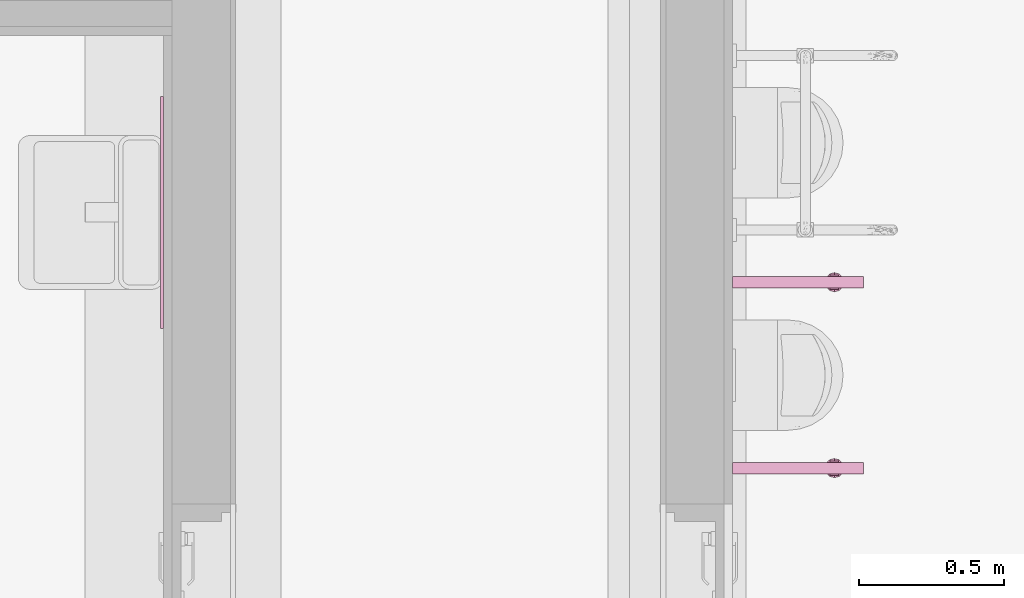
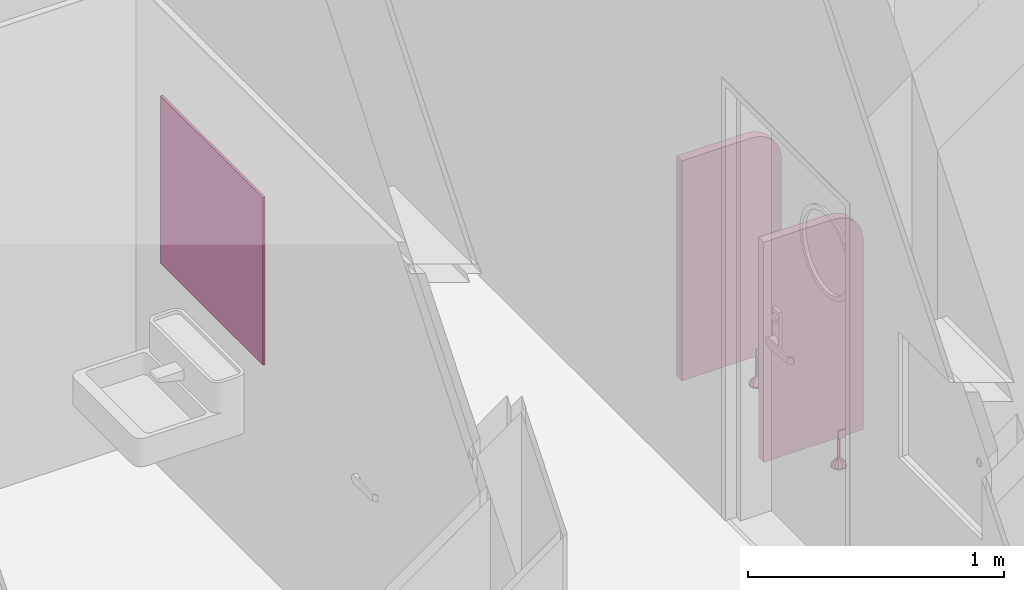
# One storey, part 96 of 100: 3 furnishings.
"""IFC2X3 building model written with IfcOpenShell, lengths in millimetres."""

from ifc_helpers import new_model, entity, si_unit, converted_unit, derived_unit, direction, frame, origin, origin_2d_with_axis, place, context, subcontext, project, spatial, rectangle, extrude, faceted_brep, source, transform, mapped, material, material_list, type_object, type_shapes, element, save


model = new_model("IFC2X3")

# Units and contexts
model_context = context("Model", 3, precision=0.01, world=origin(), true_north=direction((6.123031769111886e-17, 1.0)))
body_context = subcontext(model_context, "Body", "Model", "MODEL_VIEW")
ifc_project = project(units=[si_unit("LENGTHUNIT", "METRE", prefix="MILLI"), si_unit("AREAUNIT", "SQUARE_METRE"), si_unit("VOLUMEUNIT", "CUBIC_METRE"), converted_unit("PLANEANGLEUNIT", "DEGREE", entity("IfcRatioMeasure", 0.017453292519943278), si_unit("PLANEANGLEUNIT", "RADIAN"), dimensions=[0, 0, 0, 0, 0, 0, 0]), si_unit("MASSUNIT", "GRAM", prefix="KILO"), derived_unit("MASSDENSITYUNIT", [(si_unit("MASSUNIT", "GRAM", prefix="KILO"), 1), (si_unit("LENGTHUNIT", "METRE"), -3)]), derived_unit("MOMENTOFINERTIAUNIT", [(si_unit("LENGTHUNIT", "METRE"), 4)]), si_unit("TIMEUNIT", "SECOND"), si_unit("FREQUENCYUNIT", "HERTZ"), si_unit("THERMODYNAMICTEMPERATUREUNIT", "DEGREE_CELSIUS"), derived_unit("THERMALTRANSMITTANCEUNIT", [(si_unit("MASSUNIT", "GRAM", prefix="KILO"), 1), (si_unit("THERMODYNAMICTEMPERATUREUNIT", "KELVIN"), -1), (si_unit("TIMEUNIT", "SECOND"), -3)]), derived_unit("VOLUMETRICFLOWRATEUNIT", [(si_unit("LENGTHUNIT", "METRE"), 3), (si_unit("TIMEUNIT", "SECOND"), -1)]), derived_unit("MASSFLOWRATEUNIT", [(si_unit("MASSUNIT", "GRAM", prefix="KILO"), 1), (si_unit("TIMEUNIT", "SECOND"), -1)]), derived_unit("ROTATIONALFREQUENCYUNIT", [(si_unit("TIMEUNIT", "SECOND"), -1)]), si_unit("ELECTRICCURRENTUNIT", "AMPERE"), si_unit("ELECTRICVOLTAGEUNIT", "VOLT"), si_unit("POWERUNIT", "WATT"), si_unit("FORCEUNIT", "NEWTON", prefix="KILO"), si_unit("ILLUMINANCEUNIT", "LUX"), si_unit("LUMINOUSFLUXUNIT", "LUMEN"), si_unit("LUMINOUSINTENSITYUNIT", "CANDELA"), derived_unit("USERDEFINED", [(si_unit("MASSUNIT", "GRAM", prefix="KILO"), -1), (si_unit("LENGTHUNIT", "METRE"), -2), (si_unit("TIMEUNIT", "SECOND"), 3), (si_unit("LUMINOUSFLUXUNIT", "LUMEN"), 1)]), derived_unit("SOUNDPOWERUNIT", [(si_unit("MASSUNIT", "GRAM", prefix="KILO"), 1), (si_unit("LENGTHUNIT", "METRE"), 2), (si_unit("TIMEUNIT", "SECOND"), -3)]), derived_unit("SOUNDPRESSUREUNIT", [(si_unit("MASSUNIT", "GRAM", prefix="KILO"), 1), (si_unit("LENGTHUNIT", "METRE"), -1), (si_unit("TIMEUNIT", "SECOND"), -2)]), derived_unit("LINEARVELOCITYUNIT", [(si_unit("LENGTHUNIT", "METRE"), 1), (si_unit("TIMEUNIT", "SECOND"), -1)]), si_unit("PRESSUREUNIT", "PASCAL"), derived_unit("USERDEFINED", [(si_unit("LENGTHUNIT", "METRE"), -2), (si_unit("MASSUNIT", "GRAM", prefix="KILO"), 1), (si_unit("TIMEUNIT", "SECOND"), -2)]), derived_unit("LINEARFORCEUNIT", [(si_unit("MASSUNIT", "GRAM", prefix="KILO"), 1), (si_unit("LENGTHUNIT", "METRE"), 1), (si_unit("TIMEUNIT", "SECOND"), -2), (si_unit("LENGTHUNIT", "METRE"), -1)]), derived_unit("PLANARFORCEUNIT", [(si_unit("MASSUNIT", "GRAM", prefix="KILO"), 1), (si_unit("LENGTHUNIT", "METRE"), 1), (si_unit("TIMEUNIT", "SECOND"), -2), (si_unit("LENGTHUNIT", "METRE"), -2)])], contexts=[model_context])

# Site, building, storey, space
site_placement = place(None, frame((-14167.972527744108, -657.2125860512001, 0.0)))
site = spatial("IfcSite", under=ifc_project, at=site_placement, Name="Default", CompositionType="ELEMENT")
building_placement = place(site_placement, origin())
building = spatial("IfcBuilding", under=site, at=building_placement, Name="Sample Building", CompositionType="ELEMENT")
storey_placement = place(building_placement, origin())
storey = spatial("IfcBuildingStorey", under=building, at=storey_placement, Name="지상 1층", CompositionType="ELEMENT", Elevation=0.0)
space_1_placement = place(storey_placement, origin())
space_1 = spatial("IfcSpace", under=storey, at=space_1_placement, Name="170", CompositionType="ELEMENT", InteriorOrExteriorSpace="INTERNAL")

# Furnishing
ifc_material_1 = material(Name="KBIMS-거울")
furniture_type_1 = type_object("IfcFurnitureType", Name="PF531-거울:PF531-거울 800x800", material=ifc_material_1)
shared_shape_1 = source(origin(), body_context, "Body", "SweptSolid", [
    extrude(rectangle(XDim=10.000000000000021, YDim=799.9999999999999, at=origin_2d_with_axis()), frame((0.0, 5.0, 0.0), z_axis=(0.0, 0.0, 1.0), x_axis=(0.0, 1.0, 0.0)), (0.0, 0.0, 1.0), 800.0000000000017),
])
type_shapes(furniture_type_1, [shared_shape_1])
furnishing_1_placement = place(space_1_placement, frame((36237.96375501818, 24567.313063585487, 490.0), z_axis=(0.0, 0.0, 1.0), x_axis=(0.0, 1.0, 0.0)))
element("IfcFurnishingElement", 1, at=furnishing_1_placement, inside=space_1, type_object=furniture_type_1, material=ifc_material_1, Name="PF531-거울:PF531-거울 800x800", ObjectType="PF531-거울:PF531-거울 800x800", context=body_context, shape_type="MappedRepresentation", body=[
    mapped(shared_shape_1, transform((0.0, 0.0, 0.0), scale=1.0)),
])

# Space
space_2_placement = place(storey_placement, origin())
space_2 = spatial("IfcSpace", under=storey, at=space_2_placement, Name="171", CompositionType="ELEMENT", InteriorOrExteriorSpace="INTERNAL")

# Furnishings
ifc_material_2 = material(Name="KBIMS-스테인리스 스틸_도금")
ifc_material_3 = material(Name="KBIMS-이동식칸막이")
ifc_material_list_1 = material_list([ifc_material_2, ifc_material_3])
ifc_material_list_2 = material_list([ifc_material_2, ifc_material_2, ifc_material_3])
furniture_type_2 = type_object("IfcFurnitureType", Name="PF582-소변기 칸막이:PF582-소변기 칸막이", material=ifc_material_list_2)
shared_shape_2 = source(origin(), body_context, "Body", "Brep", [
    faceted_brep([(-25.0, -365.0, 145.0), (25.0, -365.0, 145.0), (25.0, -365.0, 185.0), (20.0, -365.0, 185.0), (20.0, -365.0, 150.0), (-20.0, -365.0, 150.0), (-20.0, -365.0, 185.0), (-25.0, -365.0, 185.0), (-25.0, -335.0, 145.0), (-25.0, -335.0, 185.0), (-20.0, -335.0, 185.0), (-20.0, -335.0, 150.0), (20.0, -335.0, 150.0), (20.0, -335.0, 185.0), (25.0, -335.0, 185.0), (25.0, -335.0, 145.0)], [[[0, 1, 2, 3, 4, 5, 6, 7]], [[8, 9, 10, 11, 12, 13, 14, 15]], [[1, 0, 8, 15]], [[2, 1, 15, 14]], [[3, 2, 14, 13]], [[4, 3, 13, 12]], [[5, 4, 12, 11]], [[6, 5, 11, 10]], [[7, 6, 10, 9]], [[0, 7, 9, 8]]]),
    faceted_brep([(-22.500526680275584, -327.4994733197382, 7.2339182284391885), (-4.687500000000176, -345.1286071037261, 43.5703700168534), (-3.7500000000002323, -343.5048094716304, 43.5703700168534), (-6.562500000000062, -348.3762023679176, 43.5703700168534), (-5.625000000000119, -346.7524047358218, 43.5703700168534), (-30.736291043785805, -341.7642356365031, 7.233918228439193), (-28.529524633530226, -333.5284712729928, 7.2339182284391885), (-32.94305745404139, -350.0, 7.233918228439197), (-7.500000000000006, -350.0, 43.5703700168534), (-8.235764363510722, -319.26370895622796, 7.2339182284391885), (-16.47152872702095, -321.4704753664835, 7.2339182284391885), (-1.8750000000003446, -343.5048094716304, 43.5703700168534), (0.0, -343.5048094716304, 43.5703700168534), (0.0, -317.0569425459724, 7.2339182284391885), (3.7499999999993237, -343.5048094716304, 43.5703700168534), (16.471528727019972, -321.47047536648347, 7.2339182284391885), (1.8749999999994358, -343.5048094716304, 43.5703700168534), (8.235764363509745, -319.2637089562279, 7.2339182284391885), (-31.34057496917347, -344.019453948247, 7.2339182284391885), (32.943057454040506, -350.0, 7.2339182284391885), (6.56249999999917, -348.3762023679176, 43.5703700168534), (7.499999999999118, -350.0, 43.5703700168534), (4.687499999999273, -345.1286071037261, 43.5703700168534), (5.62499999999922, -346.7524047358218, 43.5703700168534), (22.50052668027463, -327.4994733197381, 7.2339182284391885), (30.339293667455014, -340.2826212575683, 7.2339182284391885), (28.529524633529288, -333.52847127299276, 7.2339182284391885), (30.73629104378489, -341.764235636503, 7.2339182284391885), (3.7499999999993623, -356.4951905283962, 43.5703700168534), (16.471528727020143, -378.52952463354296, 7.2339182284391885), (22.50052668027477, -372.5005266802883, 7.2339182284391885), (0.0, -356.4951905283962, 43.5703700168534), (8.235764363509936, -380.73629104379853, 7.2339182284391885), (1.8749999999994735, -356.4951905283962, 43.5703700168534), (-3.7500000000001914, -356.4951905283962, 43.5703700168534), (-8.23576436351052, -380.7362910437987, 7.2339182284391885), (-1.8750000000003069, -356.4951905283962, 43.5703700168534), (6.562499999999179, -351.623797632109, 43.5703700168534), (5.62499999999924, -353.24759526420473, 43.5703700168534), (30.73629104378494, -358.23576436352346, 7.233918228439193), (4.687499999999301, -354.87139289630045, 43.5703700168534), (-22.500526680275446, -372.50052668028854, 7.2339182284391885), (-16.471528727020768, -378.5295246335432, 7.2339182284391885), (-4.687500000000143, -354.87139289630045, 43.5703700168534), (0.0, -382.9430574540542, 7.2339182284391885), (-5.625000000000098, -353.24759526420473, 43.5703700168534), (-6.562500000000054, -351.623797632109, 43.5703700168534), (-28.529524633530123, -366.47152872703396, 7.2339182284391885), (-30.339293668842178, -359.7173787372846, 7.2339182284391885), (31.340574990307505, -355.980545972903, 7.2339182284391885), (28.529524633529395, -366.4715287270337, 7.2339182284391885), (-30.73629104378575, -358.23576436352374, 7.2339182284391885), (-28.52952463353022, -333.5284712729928, 0.0), (-30.7362910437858, -341.7642356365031, 0.0), (-32.94305745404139, -350.0, 0.0), (-16.471528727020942, -321.4704753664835, 0.0), (-22.500526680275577, -327.4994733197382, 0.0), (0.0, -317.0569425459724, 0.0), (-8.235764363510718, -319.26370895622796, 0.0), (16.47152872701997, -321.47047536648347, 0.0), (8.235764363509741, -319.2637089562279, 0.0), (28.52952463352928, -333.52847127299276, 0.0), (22.500526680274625, -327.4994733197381, 0.0), (32.9430574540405, -350.0, 0.0), (31.340574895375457, -344.01945367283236, 0.0), (28.529524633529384, -366.4715287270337, 0.0), (30.73629104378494, -358.23576436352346, 0.0), (16.47152872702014, -378.52952463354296, 0.0), (22.500526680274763, -372.5005266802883, 0.0), (0.0, -382.9430574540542, 0.0), (8.235764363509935, -380.73629104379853, 0.0), (-16.471528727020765, -378.5295246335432, 0.0), (-8.235764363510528, -380.7362910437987, 0.0), (-28.529524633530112, -366.47152872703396, 0.0), (-22.500526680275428, -372.50052668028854, 0.0), (-31.340574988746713, -355.98054597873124, 0.0), (0.0, -350.0, 0.0), (0.0, -350.0, 145.0), (7.49999999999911, -350.0, 145.0), (3.749999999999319, -343.5048094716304, 145.0), (-3.7500000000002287, -343.5048094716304, 145.0), (-7.499999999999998, -350.0, 145.0), (3.7499999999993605, -356.4951905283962, 145.0), (-3.7500000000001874, -356.4951905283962, 145.0)], [[[0, 1, 2]], [[3, 4, 5]], [[6, 1, 0]], [[6, 4, 1]], [[7, 8, 3]], [[9, 10, 11]], [[12, 13, 9]], [[14, 15, 16]], [[10, 2, 11]], [[12, 17, 13]], [[17, 12, 16]], [[12, 9, 11]], [[3, 5, 18, 7]], [[19, 20, 21]], [[15, 14, 22]], [[22, 23, 24]], [[25, 26, 23]], [[4, 6, 5]], [[2, 10, 0]], [[16, 15, 17]], [[20, 19, 27, 25]], [[25, 23, 20]], [[23, 26, 24]], [[15, 22, 24]], [[28, 29, 30]], [[31, 32, 33]], [[34, 35, 36]], [[37, 38, 39]], [[30, 40, 28]], [[41, 42, 43]], [[32, 29, 33]], [[31, 44, 32]], [[19, 21, 37]], [[36, 35, 44]], [[34, 42, 35]], [[45, 41, 43]], [[7, 46, 8]], [[42, 34, 43]], [[45, 47, 41]], [[48, 47, 45]], [[37, 39, 49, 19]], [[38, 50, 39]], [[38, 40, 50]], [[29, 28, 33]], [[50, 40, 30]], [[44, 31, 36]], [[46, 7, 51, 48]], [[48, 45, 46]], [[52, 53, 54, 7, 18, 5, 6]], [[10, 55, 56, 52, 6, 0]], [[55, 10, 9, 13, 57, 58]], [[15, 59, 60, 57, 13, 17]], [[26, 61, 62, 59, 15, 24]], [[61, 26, 25, 27, 19, 63, 64]], [[65, 66, 63, 19, 49, 39, 50]], [[29, 67, 68, 65, 50, 30]], [[67, 29, 32, 44, 69, 70]], [[42, 71, 72, 69, 44, 35]], [[47, 73, 74, 71, 42, 41]], [[73, 47, 48, 51, 7, 54, 75]], [[76, 61, 64]], [[76, 64, 63]], [[76, 63, 66]], [[76, 62, 61]], [[76, 59, 62]], [[76, 60, 59]], [[76, 57, 60]], [[76, 58, 57]], [[76, 55, 58]], [[76, 56, 55]], [[76, 52, 56]], [[76, 53, 52]], [[76, 54, 53]], [[76, 66, 65]], [[76, 65, 68]], [[76, 68, 67]], [[76, 67, 70]], [[76, 70, 69]], [[76, 69, 72]], [[76, 75, 54]], [[76, 73, 75]], [[76, 74, 73]], [[76, 71, 74]], [[76, 72, 71]], [[77, 78, 79]], [[79, 80, 77]], [[80, 81, 77]], [[77, 82, 78]], [[81, 83, 77]], [[82, 77, 83]], [[81, 80, 2, 1, 4, 3, 8]], [[80, 79, 14, 16, 12, 11, 2]], [[79, 78, 21, 20, 23, 22, 14]], [[78, 82, 28, 40, 38, 37, 21]], [[82, 83, 34, 36, 31, 33, 28]], [[83, 81, 8, 46, 45, 43, 34]]]),
    faceted_brep([(20.0, 0.0, 150.0), (20.0, 0.0, 1200.0), (20.0, -310.0, 1200.0), (20.0, -346.2346663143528, 1195.2296156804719), (20.0, -380.0, 1181.2435565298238), (20.0, -408.9949493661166, 1158.9949493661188), (20.0, -431.2435565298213, 1130.0), (20.0, -445.2296156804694, 1096.234666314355), (20.0, -450.0, 1060.0), (20.0, -450.0, 150.0), (-20.0, -431.2435565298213, 1130.0), (-20.0, -408.9949493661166, 1158.9949493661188), (-20.0, -380.0, 1181.2435565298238), (-20.0, -346.2346663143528, 1195.2296156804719), (-20.0, -310.0, 1200.0), (-20.0, 0.0, 1200.0), (-20.0, 0.0, 150.0), (-20.0, -450.0, 150.0), (-20.0, -450.0, 1060.0), (-20.0, -445.2296156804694, 1096.234666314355)], [[[0, 1, 2, 3, 4, 5, 6, 7, 8, 9]], [[10, 11, 12, 13, 14, 15, 16, 17, 18, 19]], [[2, 1, 15, 14]], [[3, 2, 14, 13]], [[4, 3, 13, 12]], [[5, 4, 12, 11]], [[6, 5, 11, 10]], [[7, 6, 10, 19]], [[8, 7, 19, 18]], [[9, 8, 18, 17]], [[0, 9, 17, 16]], [[1, 0, 16, 15]]]),
])
type_shapes(furniture_type_2, [shared_shape_2])
furnishing_2_placement = place(space_2_placement, frame((38197.963755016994, 24327.099955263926, -510.0), z_axis=(0.0, 0.0, 1.0), x_axis=(0.0, 1.0, 0.0)))
element("IfcFurnishingElement", 2, at=furnishing_2_placement, inside=space_2, type_object=furniture_type_2, material=ifc_material_list_1, Name="PF582-소변기 칸막이:PF582-소변기 칸막이", ObjectType="PF582-소변기 칸막이:PF582-소변기 칸막이", context=body_context, shape_type="MappedRepresentation", body=[
    mapped(shared_shape_2, transform((0.0, 0.0, 0.0), scale=1.0)),
])
ifc_material_list_3 = material_list([ifc_material_2, ifc_material_3])
furnishing_3_placement = place(space_2_placement, frame((38197.963755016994, 23687.099955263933, -510.0), z_axis=(0.0, 0.0, 1.0), x_axis=(0.0, 1.0, 0.0)))
element("IfcFurnishingElement", 3, at=furnishing_3_placement, inside=space_2, type_object=furniture_type_2, material=ifc_material_list_3, Name="PF582-소변기 칸막이:PF582-소변기 칸막이", ObjectType="PF582-소변기 칸막이:PF582-소변기 칸막이", context=body_context, shape_type="MappedRepresentation", body=[
    mapped(shared_shape_2, transform((0.0, 0.0, 0.0), scale=1.0)),
])

save(model, "model.ifc")
